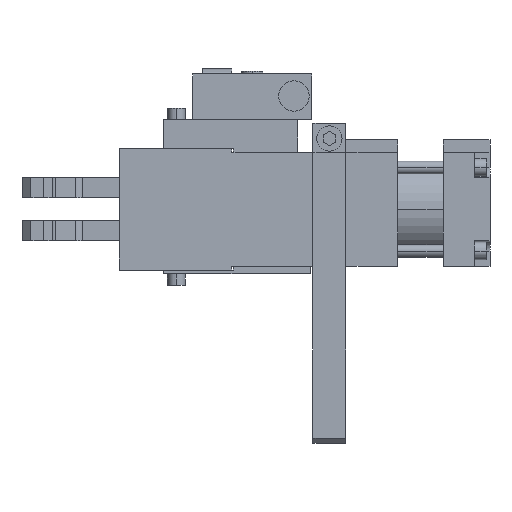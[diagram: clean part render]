
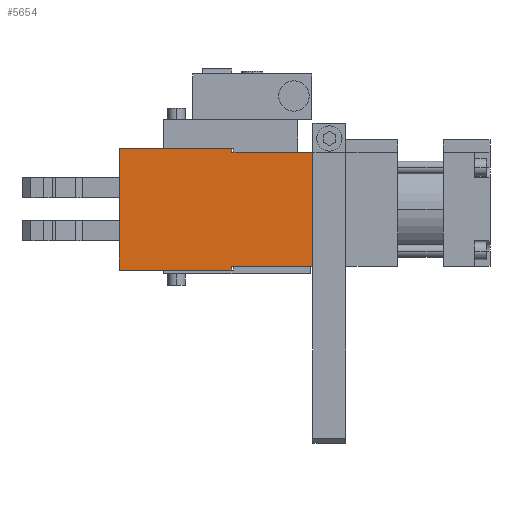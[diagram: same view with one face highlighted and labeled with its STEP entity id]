
A CAD part, left-side view. The second image highlights one B-rep face of the part: STEP entity #5654.
In plain terms, the highlighted planar face has unit normal (-1, 0, 0).
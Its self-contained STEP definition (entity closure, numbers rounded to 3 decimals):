
#115 = CARTESIAN_POINT ( 'NONE',  ( -22.5, -40., 22.5 ) ) ;
#172 = EDGE_CURVE ( 'NONE', #14049, #12226, #9944, .T. ) ;
#479 = ORIENTED_EDGE ( 'NONE', *, *, #7450, .F. ) ;
#727 = DIRECTION ( 'NONE',  ( 0., 0., -1. ) ) ;
#889 = EDGE_CURVE ( 'NONE', #12778, #5337, #12834, .T. ) ;
#1089 = DIRECTION ( 'NONE',  ( 0., 0., 1. ) ) ;
#1155 = CARTESIAN_POINT ( 'NONE',  ( -22.5, -8., 24. ) ) ;
#1293 = DIRECTION ( 'NONE',  ( 0., 0., -1. ) ) ;
#1530 = ORIENTED_EDGE ( 'NONE', *, *, #889, .T. ) ;
#1903 = CARTESIAN_POINT ( 'NONE',  ( -22.5, -40., 12.5 ) ) ;
#2424 = VERTEX_POINT ( 'NONE', #13241 ) ;
#2555 = DIRECTION ( 'NONE',  ( 0., 0., 1. ) ) ;
#2839 = VECTOR ( 'NONE', #10003, 1000. ) ;
#3031 = CARTESIAN_POINT ( 'NONE',  ( -22.5, -8., 22.5 ) ) ;
#3135 = VECTOR ( 'NONE', #2555, 1000. ) ;
#3580 = CARTESIAN_POINT ( 'NONE',  ( -22.5, 36.5, -24. ) ) ;
#4066 = LINE ( 'NONE', #1903, #7025 ) ;
#4310 = DIRECTION ( 'NONE',  ( 0., -1., 0. ) ) ;
#4690 = ORIENTED_EDGE ( 'NONE', *, *, #9409, .F. ) ;
#4713 = CARTESIAN_POINT ( 'NONE',  ( -22.5, 22., 22.5 ) ) ;
#4853 = VECTOR ( 'NONE', #4310, 1000. ) ;
#5337 = VERTEX_POINT ( 'NONE', #15006 ) ;
#5654 = ADVANCED_FACE ( 'NONE', ( #12741 ), #7782, .F. ) ;
#6059 = VERTEX_POINT ( 'NONE', #12389 ) ;
#6178 = VECTOR ( 'NONE', #14677, 1000. ) ;
#7025 = VECTOR ( 'NONE', #1293, 1000. ) ;
#7064 = DIRECTION ( 'NONE',  ( 0., 1., 0. ) ) ;
#7082 = DIRECTION ( 'NONE',  ( 1., 0., 0. ) ) ;
#7134 = ORIENTED_EDGE ( 'NONE', *, *, #11489, .F. ) ;
#7450 = EDGE_CURVE ( 'NONE', #7480, #6059, #4066, .T. ) ;
#7480 = VERTEX_POINT ( 'NONE', #115 ) ;
#7782 = PLANE ( 'NONE',  #15968 ) ;
#7931 = CARTESIAN_POINT ( 'NONE',  ( -22.5, 22., 12.5 ) ) ;
#8164 = LINE ( 'NONE', #12045, #8952 ) ;
#8500 = DIRECTION ( 'NONE',  ( 0., -1., 0. ) ) ;
#8952 = VECTOR ( 'NONE', #727, 1000. ) ;
#9409 = EDGE_CURVE ( 'NONE', #12778, #14049, #9835, .T. ) ;
#9462 = ORIENTED_EDGE ( 'NONE', *, *, #172, .F. ) ;
#9819 = LINE ( 'NONE', #4713, #13137 ) ;
#9835 = LINE ( 'NONE', #10117, #3135 ) ;
#9866 = EDGE_CURVE ( 'NONE', #10789, #7480, #9819, .T. ) ;
#9895 = CARTESIAN_POINT ( 'NONE',  ( -22.5, 22., 24. ) ) ;
#9944 = LINE ( 'NONE', #9895, #2839 ) ;
#10003 = DIRECTION ( 'NONE',  ( 0., -1., 0. ) ) ;
#10117 = CARTESIAN_POINT ( 'NONE',  ( -22.5, 36.5, 24. ) ) ;
#10310 = LINE ( 'NONE', #16007, #13598 ) ;
#10599 = CARTESIAN_POINT ( 'NONE',  ( -22.5, 22., -22.5 ) ) ;
#10629 = CARTESIAN_POINT ( 'NONE',  ( -22.5, 36.5, 24. ) ) ;
#10789 = VERTEX_POINT ( 'NONE', #3031 ) ;
#10793 = EDGE_CURVE ( 'NONE', #2424, #6059, #14775, .T. ) ;
#11489 = EDGE_CURVE ( 'NONE', #12226, #10789, #8164, .T. ) ;
#12045 = CARTESIAN_POINT ( 'NONE',  ( -22.5, -8., 24. ) ) ;
#12226 = VERTEX_POINT ( 'NONE', #1155 ) ;
#12389 = CARTESIAN_POINT ( 'NONE',  ( -22.5, -40., -22.5 ) ) ;
#12741 = FACE_OUTER_BOUND ( 'NONE', #16132, .T. ) ;
#12778 = VERTEX_POINT ( 'NONE', #3580 ) ;
#12834 = LINE ( 'NONE', #15469, #6178 ) ;
#12864 = ORIENTED_EDGE ( 'NONE', *, *, #9866, .F. ) ;
#13137 = VECTOR ( 'NONE', #8500, 1000. ) ;
#13241 = CARTESIAN_POINT ( 'NONE',  ( -22.5, -8., -22.5 ) ) ;
#13598 = VECTOR ( 'NONE', #1089, 1000. ) ;
#13744 = ORIENTED_EDGE ( 'NONE', *, *, #10793, .T. ) ;
#14049 = VERTEX_POINT ( 'NONE', #10629 ) ;
#14677 = DIRECTION ( 'NONE',  ( 0., -1., 0. ) ) ;
#14775 = LINE ( 'NONE', #10599, #4853 ) ;
#15006 = CARTESIAN_POINT ( 'NONE',  ( -22.5, -8., -24. ) ) ;
#15469 = CARTESIAN_POINT ( 'NONE',  ( -22.5, 22., -24. ) ) ;
#15702 = ORIENTED_EDGE ( 'NONE', *, *, #15924, .T. ) ;
#15924 = EDGE_CURVE ( 'NONE', #5337, #2424, #10310, .T. ) ;
#15968 = AXIS2_PLACEMENT_3D ( 'NONE', #7931, #7082, #7064 ) ;
#16007 = CARTESIAN_POINT ( 'NONE',  ( -22.5, -8., -24. ) ) ;
#16132 = EDGE_LOOP ( 'NONE', ( #9462, #4690, #1530, #15702, #13744, #479, #12864, #7134 ) ) ;
